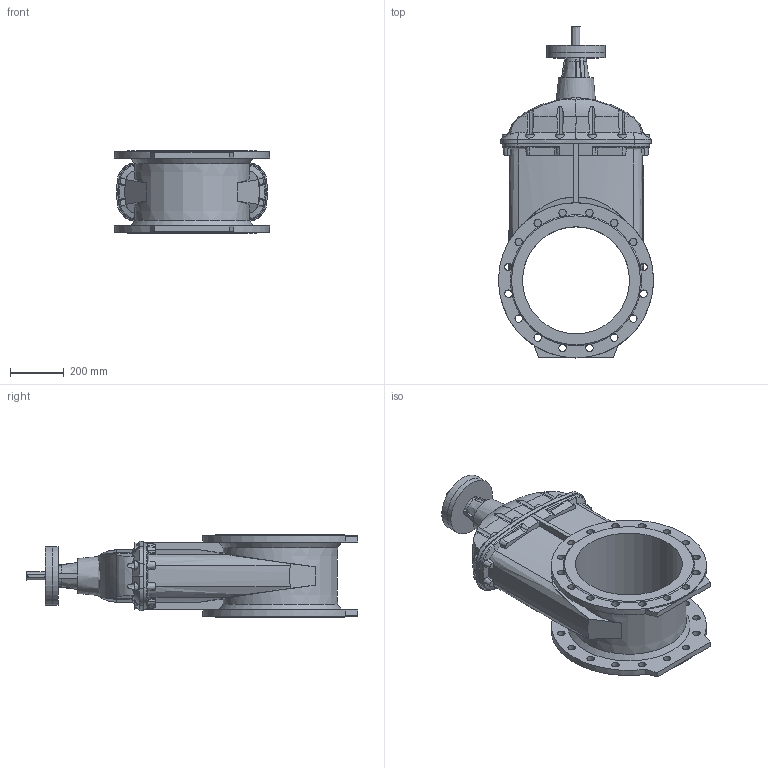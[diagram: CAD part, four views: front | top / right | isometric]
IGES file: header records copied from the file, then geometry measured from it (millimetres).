
Start section: SolidWorks IGES file using analytic representation for surfaces
Global section: file name: \\avksan2\techshare\PBM outline export from Enovia\O_15_40_DN400_X0X_AA0.igs; native system: SolidWorks 2012; preprocessor: SolidWorks 2012; author: pbm; date: 170310.090451; units: millimetre
Bounding box: 580 x 1241 x 310 mm (x, y, z)
Surface area: 2263611.6 mm2 (no closed solid volume)
Topology: 0 solids, 0 shells, 371 faces, 2304 edges, 2250 vertices
Faces by surface type: revolution 221, bspline 150
